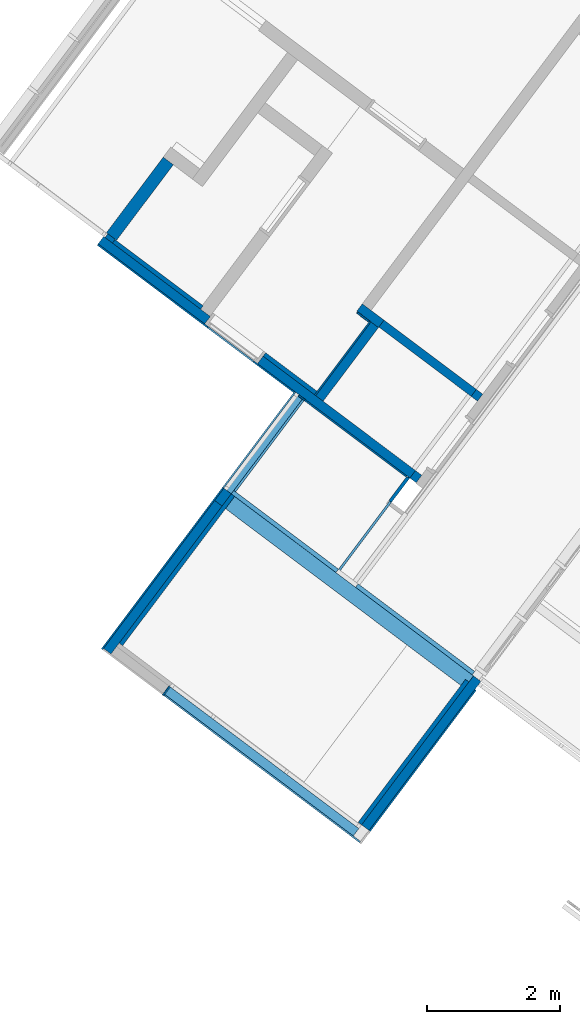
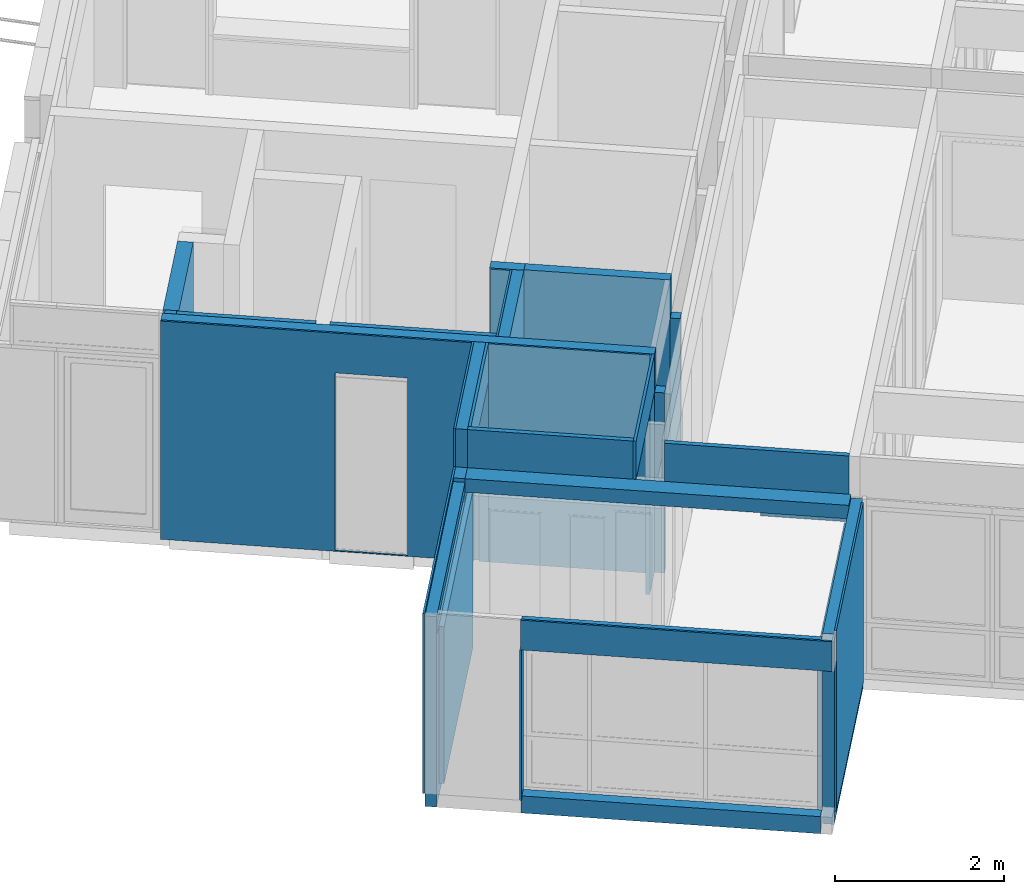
# One storey, part 118 of 243: 34 walls, 4 openings.
"""IFC2X3 building model written with IfcOpenShell, lengths in metres."""

from ifc_helpers import new_model, entity, si_unit, converted_unit, derived_unit, direction, frame, frame_2d, origin, origin_2d_with_axis, place, context, subcontext, project, spatial, polyline, rectangle, extrude, clip, bounded_halfspace, material, layer, layer_set, layer_usage, type_object, element, save


model = new_model("IFC2X3")

# Units and contexts
model_context = context("Model", 3, precision=1e-05, world=origin(), true_north=direction((6.123031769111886e-17, 1.0)))
body_context = subcontext(model_context, "Body", "Model", "MODEL_VIEW")
ifc_project = project(units=[si_unit("LENGTHUNIT", "METRE"), si_unit("AREAUNIT", "SQUARE_METRE"), si_unit("VOLUMEUNIT", "CUBIC_METRE"), converted_unit("PLANEANGLEUNIT", "DEGREE", entity("IfcRatioMeasure", 0.017453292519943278), si_unit("PLANEANGLEUNIT", "RADIAN"), dimensions=[0, 0, 0, 0, 0, 0, 0]), si_unit("MASSUNIT", "GRAM", prefix="KILO"), derived_unit("MASSDENSITYUNIT", [(si_unit("MASSUNIT", "GRAM", prefix="KILO"), 1), (si_unit("LENGTHUNIT", "METRE"), -3)]), derived_unit("IONCONCENTRATIONUNIT", [(si_unit("MASSUNIT", "GRAM", prefix="KILO"), 1), (si_unit("LENGTHUNIT", "METRE"), -3)]), derived_unit("MOMENTOFINERTIAUNIT", [(si_unit("LENGTHUNIT", "METRE"), 4)]), si_unit("TIMEUNIT", "SECOND"), si_unit("FREQUENCYUNIT", "HERTZ"), si_unit("THERMODYNAMICTEMPERATUREUNIT", "DEGREE_CELSIUS"), derived_unit("THERMALTRANSMITTANCEUNIT", [(si_unit("MASSUNIT", "GRAM", prefix="KILO"), 1), (si_unit("THERMODYNAMICTEMPERATUREUNIT", "KELVIN"), -1), (si_unit("TIMEUNIT", "SECOND"), -3)]), derived_unit("THERMALCONDUCTANCEUNIT", [(si_unit("MASSUNIT", "GRAM", prefix="KILO"), 1), (si_unit("THERMODYNAMICTEMPERATUREUNIT", "KELVIN"), -1), (si_unit("TIMEUNIT", "SECOND"), -3), (si_unit("LENGTHUNIT", "METRE"), 1)]), derived_unit("VOLUMETRICFLOWRATEUNIT", [(si_unit("LENGTHUNIT", "METRE"), 3), (si_unit("TIMEUNIT", "SECOND"), -1)]), derived_unit("MASSFLOWRATEUNIT", [(si_unit("MASSUNIT", "GRAM", prefix="KILO"), 1), (si_unit("TIMEUNIT", "SECOND"), -1)]), derived_unit("ROTATIONALFREQUENCYUNIT", [(si_unit("TIMEUNIT", "SECOND"), -1)]), si_unit("ELECTRICCURRENTUNIT", "AMPERE"), si_unit("ELECTRICVOLTAGEUNIT", "VOLT"), si_unit("POWERUNIT", "WATT"), si_unit("FORCEUNIT", "NEWTON", prefix="KILO"), si_unit("ILLUMINANCEUNIT", "LUX"), si_unit("LUMINOUSFLUXUNIT", "LUMEN"), si_unit("LUMINOUSINTENSITYUNIT", "CANDELA"), derived_unit("USERDEFINED", [(si_unit("MASSUNIT", "GRAM", prefix="KILO"), -1), (si_unit("LENGTHUNIT", "METRE"), -2), (si_unit("TIMEUNIT", "SECOND"), 3), (si_unit("LUMINOUSFLUXUNIT", "LUMEN"), 1)]), derived_unit("USERDEFINED", [(si_unit("MASSUNIT", "GRAM", prefix="KILO"), 1), (si_unit("TIMEUNIT", "SECOND"), -3), (si_unit("LENGTHUNIT", "METRE"), 3), (si_unit("ELECTRICCURRENTUNIT", "AMPERE"), -2)]), derived_unit("SOUNDPOWERUNIT", [(si_unit("MASSUNIT", "GRAM", prefix="KILO"), 1), (si_unit("TIMEUNIT", "SECOND"), -3), (si_unit("LENGTHUNIT", "METRE"), 2)]), derived_unit("SOUNDPRESSUREUNIT", [(si_unit("MASSUNIT", "GRAM", prefix="KILO"), 1), (si_unit("LENGTHUNIT", "METRE"), -1), (si_unit("TIMEUNIT", "SECOND"), -2)]), derived_unit("LINEARVELOCITYUNIT", [(si_unit("LENGTHUNIT", "METRE"), 1), (si_unit("TIMEUNIT", "SECOND"), -1)]), si_unit("PRESSUREUNIT", "PASCAL"), derived_unit("USERDEFINED", [(si_unit("MASSUNIT", "GRAM", prefix="KILO"), 1), (si_unit("LENGTHUNIT", "METRE"), -2), (si_unit("TIMEUNIT", "SECOND"), -2)]), derived_unit("LINEARFORCEUNIT", [(si_unit("MASSUNIT", "GRAM", prefix="KILO"), 1), (si_unit("TIMEUNIT", "SECOND"), -2)]), derived_unit("PLANARFORCEUNIT", [(si_unit("MASSUNIT", "GRAM", prefix="KILO"), 1), (si_unit("LENGTHUNIT", "METRE"), -1), (si_unit("TIMEUNIT", "SECOND"), -2)]), derived_unit("SPECIFICHEATCAPACITYUNIT", [(si_unit("THERMODYNAMICTEMPERATUREUNIT", "KELVIN"), -1), (si_unit("LENGTHUNIT", "METRE"), 2), (si_unit("TIMEUNIT", "SECOND"), -2)]), derived_unit("HEATINGVALUEUNIT", [(si_unit("LENGTHUNIT", "METRE"), 2), (si_unit("TIMEUNIT", "SECOND"), -2)]), derived_unit("VAPORPERMEABILITYUNIT", [(si_unit("LENGTHUNIT", "METRE"), -1), (si_unit("TIMEUNIT", "SECOND"), 1)]), derived_unit("DYNAMICVISCOSITYUNIT", [(si_unit("MASSUNIT", "GRAM", prefix="KILO"), 1), (si_unit("TIMEUNIT", "SECOND"), -1), (si_unit("LENGTHUNIT", "METRE"), -1)]), derived_unit("THERMALEXPANSIONCOEFFICIENTUNIT", [(si_unit("THERMODYNAMICTEMPERATUREUNIT", "KELVIN"), -1)]), derived_unit("MODULUSOFELASTICITYUNIT", [(si_unit("MASSUNIT", "GRAM", prefix="KILO"), 1), (si_unit("LENGTHUNIT", "METRE"), -1), (si_unit("TIMEUNIT", "SECOND"), -2)]), derived_unit("ISOTHERMALMOISTURECAPACITYUNIT", [(si_unit("LENGTHUNIT", "METRE"), 3), (si_unit("MASSUNIT", "GRAM", prefix="KILO"), -1)]), derived_unit("MOISTUREDIFFUSIVITYUNIT", [(si_unit("TIMEUNIT", "SECOND"), -1), (si_unit("LENGTHUNIT", "METRE"), 2)])], contexts=[model_context])

# Site, building, storey
site_placement = place(None, frame((0.0, 0.0, 235.0), z_axis=(0.0, 0.0, 1.0), x_axis=(-0.7996477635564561, 0.6004693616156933, 0.0)))
site = spatial("IfcSite", under=ifc_project, at=site_placement, Name="Default", CompositionType="ELEMENT")
building_placement = place(site_placement, origin())
building = spatial("IfcBuilding", under=site, at=building_placement, CompositionType="ELEMENT")
storey_placement = place(building_placement, origin())
storey = spatial("IfcBuildingStorey", under=building, at=storey_placement, Name="P0- Escola", CompositionType="ELEMENT", Elevation=0.0)

# Wall, opening
ifc_material_1 = material(Name="_Ceràmica- ENV")
ifc_layer_1 = layer(ifc_material_1, 0.14)
ifc_layer_set_1 = layer_set([ifc_layer_1], Name="Muro básico:ENV- Ceràmic- 14 cm")
ifc_layer_usage_1 = layer_usage(ifc_layer_set_1, "AXIS2", "NEGATIVE", 0.07)
wall_type_1 = type_object("IfcWallType", Name="Muro básico:ENV- Ceràmic- 14 cm", PredefinedType="STANDARD", material=ifc_layer_set_1)
wall_1_placement = place(storey_placement, frame((21.82514768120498, -20.22019175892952, 0.0), z_axis=(0.0, 0.0, 1.0), x_axis=(-1.0, 0.0, 0.0)))
wall_1 = element("IfcWallStandardCase", 1, at=wall_1_placement, inside=storey, type_object=wall_type_1, material=ifc_layer_usage_1, Name="Muro básico:ENV- Ceràmic- 14 cm", ObjectType="Muro básico:ENV- Ceràmic- 14 cm", context=body_context, shape_type="SweptSolid", body=[
    extrude(rectangle(XDim=5.879999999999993, YDim=0.14000000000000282, at=frame_2d((2.9399999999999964, 0.0), x_axis=(-1.0, 0.0))), origin(), (0.0, 0.0, 1.0), 3.150000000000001),
])
opening_1_placement = place(wall_1_placement, frame((3.0076161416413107, 0.07000000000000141, 0.0)))
element("IfcOpeningElement", 2, at=opening_1_placement, cuts=wall_1, Name="FUS- Alu- Fulla porta opaca:FUS- Alu- Fulla porta opaca- 2,505X0,85:1", ObjectType="Opening", context=body_context, shape_type="SweptSolid", body=[
    extrude(rectangle(XDim=2.573999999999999, YDim=0.9965999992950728, at=frame_2d((1.2869999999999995, 0.4982999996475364), x_axis=(1.0, 0.0))), frame((0.0, 0.0, 0.0), z_axis=(0.0, -1.0, 0.0), x_axis=(0.0, 0.0, 1.0)), (0.0, 0.0, 1.0), 0.14),
])

# Walls
wall_2_placement = place(storey_placement, frame((18.095147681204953, -21.750191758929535, 0.0), z_axis=(0.0, 0.0, 1.0), x_axis=(-1.0, 0.0, 0.0)))
element("IfcWallStandardCase", 3, at=wall_2_placement, inside=storey, type_object=wall_type_1, material=ifc_layer_usage_1, Name="Muro básico:ENV- Ceràmic- 14 cm", ObjectType="Muro básico:ENV- Ceràmic- 14 cm", context=body_context, shape_type="SweptSolid", body=[
    extrude(rectangle(XDim=0.40899999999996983, YDim=0.14000000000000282, at=frame_2d((0.20449999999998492, 0.0), x_axis=(-1.0, 0.0))), origin(), (0.0, 0.0, 1.0), 3.150000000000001),
])
ifc_layer_usage_2 = layer_usage(ifc_layer_set_1, "AXIS2", "POSITIVE", -0.07)
wall_3_placement = place(storey_placement, frame((17.756147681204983, -21.68019175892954, 0.0), z_axis=(0.0, 0.0, 1.0), x_axis=(0.0, 1.0, 0.0)))
element("IfcWallStandardCase", 4, at=wall_3_placement, inside=storey, type_object=wall_type_1, material=ifc_layer_usage_2, Name="Muro básico:ENV- Ceràmic- 14 cm", ObjectType="Muro básico:ENV- Ceràmic- 14 cm", context=body_context, shape_type="SweptSolid", body=[
    extrude(rectangle(XDim=1.3900000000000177, YDim=0.13999999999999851, at=frame_2d((0.6950000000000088, -2.7755575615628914e-16), x_axis=(-1.0, 0.0))), origin(), (0.0, 0.0, 1.0), 3.150000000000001),
])
wall_4_placement = place(storey_placement, frame((21.730147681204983, -20.36019175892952, 0.0), z_axis=(0.0, 0.0, 1.0), x_axis=(0.0, 1.0, 0.0)))
element("IfcWallStandardCase", 5, at=wall_4_placement, inside=storey, type_object=wall_type_1, material=ifc_layer_usage_1, Name="Muro básico:ENV- Ceràmic- 14 cm", ObjectType="Muro básico:ENV- Ceràmic- 14 cm", context=body_context, shape_type="SweptSolid", body=[
    extrude(rectangle(XDim=0.06999999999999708, YDim=0.14000000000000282, at=frame_2d((0.03499999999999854, 0.0), x_axis=(-1.0, 0.0))), origin(), (0.0, 0.0, 1.0), 3.150000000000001),
])
wall_5_placement = place(storey_placement, frame((15.94514768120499, -20.22019175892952, 0.0), z_axis=(0.0, 0.0, 1.0), x_axis=(-1.0, 0.0, 0.0)))
element("IfcWallStandardCase", 6, at=wall_5_placement, inside=storey, type_object=wall_type_1, material=ifc_layer_usage_1, Name="Muro básico:ENV- Ceràmic- 14 cm", ObjectType="Muro básico:ENV- Ceràmic- 14 cm", context=body_context, shape_type="SweptSolid", body=[
    extrude(rectangle(XDim=0.12000000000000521, YDim=0.14000000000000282, at=frame_2d((0.06000000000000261, 0.0), x_axis=(-1.0, 0.0))), origin(), (0.0, 0.0, 1.0), 2.6000000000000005),
])
wall_6_placement = place(storey_placement, frame((13.315147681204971, -18.340191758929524, -0.2), z_axis=(0.0, 0.0, 1.0), x_axis=(0.0, 1.0, 0.0)))
element("IfcWallStandardCase", 7, at=wall_6_placement, inside=storey, type_object=wall_type_1, material=ifc_layer_usage_2, Name="Muro básico:ENV- Ceràmic- 14 cm", ObjectType="Muro básico:ENV- Ceràmic- 14 cm", context=body_context, shape_type="SweptSolid", body=[
    extrude(rectangle(XDim=2.8100000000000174, YDim=0.1399999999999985, at=frame_2d((1.4050000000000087, -1.5265566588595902e-16), x_axis=(-1.0, 0.0))), origin(), (0.0, 0.0, 1.0), 2.748000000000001),
])
wall_7_placement = place(storey_placement, frame((13.385147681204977, -15.390191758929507, 2.1699999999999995)))
element("IfcWallStandardCase", 8, at=wall_7_placement, inside=storey, type_object=wall_type_1, material=ifc_layer_usage_2, Name="Muro básico:ENV- Ceràmic- 14 cm", ObjectType="Muro básico:ENV- Ceràmic- 14 cm", context=body_context, shape_type="Clipping", body=[
    clip(extrude(rectangle(XDim=3.567999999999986, YDim=0.13999999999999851, at=frame_2d((1.783999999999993, -1.3877787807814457e-17), x_axis=(-1.0, 0.0))), origin(), (0.0, 0.0, 1.0), 0.3780000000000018), bounded_halfspace(frame((0.0, 0.03999999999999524, 0.09500000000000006), z_axis=(0.0, 1.0, 0.0), x_axis=(0.0, 0.0, 1.0)), True, frame((0.0, 0.03999999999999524, 0.09500000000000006), z_axis=(0.0, 1.0, 0.0), x_axis=(0.0, 0.0, 1.0)), polyline([(0.0, 0.0), (0.14000000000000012, 0.0), (0.14000000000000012, 3.5679999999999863), (0.0, 3.5679999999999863), (0.0, 0.0)]))),
])

# Wall, opening
wall_8_placement = place(storey_placement, frame((18.025147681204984, -18.225191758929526, -0.2), z_axis=(0.0, 0.0, 1.0), x_axis=(0.0, 1.0, 0.0)))
wall_8 = element("IfcWallStandardCase", 9, at=wall_8_placement, inside=storey, type_object=wall_type_1, material=ifc_layer_usage_1, Name="Muro básico:ENV- Ceràmic- 14 cm", ObjectType="Muro básico:ENV- Ceràmic- 14 cm", context=body_context, shape_type="SweptSolid", body=[
    extrude(rectangle(XDim=2.9050000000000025, YDim=0.13999999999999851, at=frame_2d((1.4525000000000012, -2.0816681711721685e-16), x_axis=(-1.0, 0.0))), origin(), (0.0, 0.0, 1.0), 2.748000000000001),
])
opening_2_placement = place(storey_placement, frame((18.025147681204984, -18.225191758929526, -0.2), z_axis=(0.0, 0.0, 1.0), x_axis=(0.0, 1.0, 0.0)))
element("IfcOpeningElement", 10, at=opening_2_placement, cuts=wall_8, Name="Muro básico:ENV- Ceràmic- 14 cm:1", ObjectType="Opening", context=body_context, shape_type="SweptSolid", body=[
    extrude(rectangle(XDim=2.8750000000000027, YDim=0.11000000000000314, at=frame_2d((-0.4316666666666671, -0.0183333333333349), x_axis=(1.0, 0.0))), frame((1.8691666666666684, 0.03333333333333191, 2.4649999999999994)), (0.0, 0.0, 1.0), 0.14000000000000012),
])

# Walls
wall_9_placement = place(storey_placement, frame((18.025147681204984, -18.341191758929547, -0.2), z_axis=(0.0, 0.0, 1.0), x_axis=(0.0, 1.0, 0.0)))
element("IfcWallStandardCase", 11, at=wall_9_placement, inside=storey, type_object=wall_type_1, material=ifc_layer_usage_1, Name="Muro básico:ENV- Ceràmic- 14 cm", ObjectType="Muro básico:ENV- Ceràmic- 14 cm", context=body_context, shape_type="SweptSolid", body=[
    extrude(rectangle(XDim=0.23100000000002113, YDim=0.1399999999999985, at=frame_2d((0.11550000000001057, 0.0), x_axis=(-1.0, 0.0))), origin(), (0.0, 0.0, 1.0), 2.800000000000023),
])
wall_10_placement = place(storey_placement, frame((18.025147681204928, -20.150191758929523, 2.6000000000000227), z_axis=(0.0, 0.0, 1.0), x_axis=(0.0, 1.0, 0.0)))
element("IfcWallStandardCase", 12, at=wall_10_placement, inside=storey, type_object=wall_type_1, material=ifc_layer_usage_1, Name="Muro básico:ENV- Ceràmic- 14 cm", ObjectType="Muro básico:ENV- Ceràmic- 14 cm", context=body_context, shape_type="SweptSolid", body=[
    extrude(rectangle(XDim=1.8099999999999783, YDim=0.1399999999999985, at=frame_2d((0.9049999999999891, -4.163336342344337e-17), x_axis=(-1.0, 0.0))), origin(), (0.0, 0.0, 1.0), 0.5500000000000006),
])
wall_11_placement = place(storey_placement, frame((16.953147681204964, -15.390191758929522, -0.2), z_axis=(0.0, 0.0, 1.0), x_axis=(-1.0, 0.0, 0.0)))
element("IfcWallStandardCase", 13, at=wall_11_placement, inside=storey, type_object=wall_type_1, material=ifc_layer_usage_1, Name="Muro básico:ENV- Ceràmic- 14 cm", ObjectType="Muro básico:ENV- Ceràmic- 14 cm", context=body_context, shape_type="SweptSolid", body=[
    extrude(rectangle(XDim=3.567999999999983, YDim=0.14000000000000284, at=frame_2d((1.7839999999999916, -1.2351231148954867e-15), x_axis=(-1.0, 0.0))), origin(), (0.0, 0.0, 1.0), 0.24655977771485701),
])

# Wall, opening
ifc_material_2 = material(Name="_Guix laminat- ENV")
ifc_layer_2 = layer(ifc_material_2, 0.02)
ifc_material_3 = material(Name="_Aillament")
ifc_layer_3 = layer(ifc_material_3, 0.045)
ifc_layer_set_2 = layer_set([ifc_layer_2, ifc_layer_3], Name="Muro básico:REV- Guix Laminat Extradossat- Aillament- T1- 6,5 cm")
ifc_layer_usage_3 = layer_usage(ifc_layer_set_2, "AXIS2", "NEGATIVE", 0.032499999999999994)
wall_type_2 = type_object("IfcWallType", Name="Muro básico:REV- Guix Laminat Extradossat- Aillament- T1- 6,5 cm", PredefinedType="STANDARD", material=ifc_layer_set_2)
wall_12_placement = place(storey_placement, frame((19.832647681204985, -20.322691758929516, 0.0), z_axis=(0.0, 0.0, 1.0), x_axis=(-1.0, 0.0, 0.0)))
wall_12 = element("IfcWallStandardCase", 14, at=wall_12_placement, inside=storey, type_object=wall_type_2, material=ifc_layer_usage_3, Name="Muro básico:REV- Guix Laminat Extradossat- Aillament- T1- 6,5 cm", ObjectType="Muro básico:REV- Guix Laminat Extradossat- Aillament- T1- 6,5 cm", context=body_context, shape_type="SweptSolid", body=[
    extrude(rectangle(XDim=1.9815, YDim=0.06500000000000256, at=frame_2d((0.99075, -1.4259426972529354e-15), x_axis=(-1.0, 0.0))), origin(), (0.0, 0.0, 1.0), 3.150000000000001),
])
opening_3_placement = place(wall_12_placement, frame((1.0151161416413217, 1.5564999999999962, 0.0), z_axis=(0.0, 0.0, 1.0), x_axis=(-1.0, 0.0, 0.0)))
element("IfcOpeningElement", 15, at=opening_3_placement, cuts=wall_12, Name="Muro básico:REV- Guix Laminat Extradossat- Aillament- T1- 6,5 cm", ObjectType="Opening", context=body_context, shape_type="SweptSolid", body=[
    extrude(rectangle(XDim=2.599999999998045, YDim=1.0277156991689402, at=frame_2d((0.0, 1.0547118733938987e-15), x_axis=(1.0, 0.0))), frame((0.513857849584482, 3.048, 1.2999999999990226), z_axis=(0.0, -1.0, 0.0), x_axis=(0.0, 0.0, 1.0)), (0.0, 0.0, 1.0), 3.0480000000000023),
])

# Walls
ifc_layer_usage_4 = layer_usage(ifc_layer_set_2, "AXIS2", "POSITIVE", -0.032499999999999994)
wall_13_placement = place(storey_placement, frame((19.99764768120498, -20.322691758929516, 0.0)))
element("IfcWallStandardCase", 16, at=wall_13_placement, inside=storey, type_object=wall_type_2, material=ifc_layer_usage_4, Name="Muro básico:REV- Guix Laminat Extradossat- Aillament- T1- 6,5 cm", ObjectType="Muro básico:REV- Guix Laminat Extradossat- Aillament- T1- 6,5 cm", context=body_context, shape_type="SweptSolid", body=[
    extrude(rectangle(XDim=1.662499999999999, YDim=0.06500000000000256, at=frame_2d((0.8312499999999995, 1.8908485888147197e-15), x_axis=(-1.0, 0.0))), origin(), (0.0, 0.0, 1.0), 3.150000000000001),
])
wall_14_placement = place(storey_placement, frame((15.980147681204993, -18.372691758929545, 2.200000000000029)))
element("IfcWallStandardCase", 17, at=wall_14_placement, inside=storey, type_object=wall_type_2, material=ifc_layer_usage_4, Name="Muro básico:REV- Guix Laminat Extradossat- Aillament- T1- 6,5 cm", ObjectType="Muro básico:REV- Guix Laminat Extradossat- Aillament- T1- 6,5 cm", context=body_context, shape_type="Clipping", body=[
    clip(clip(extrude(rectangle(XDim=1.9749999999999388, YDim=0.06499999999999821, at=frame_2d((0.9874999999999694, 0.0), x_axis=(-1.0, 0.0))), origin(), (0.0, 0.0, 1.0), 0.9499999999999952), bounded_halfspace(frame((1.9099999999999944, 0.032499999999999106, 0.06499999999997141), z_axis=(0.0, 0.0, 1.0), x_axis=(0.0, -1.0, 0.0)), True, frame((1.9099999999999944, 0.032499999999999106, 0.06499999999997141), z_axis=(0.0, 0.0, 1.0), x_axis=(0.0, -1.0, 0.0)), polyline([(0.0, 0.0), (0.0, -1.9099999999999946), (0.0650000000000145, -1.9099999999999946), (0.06500000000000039, 0.0), (0.0, 0.0)]))), bounded_halfspace(frame((1.9099999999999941, -0.032500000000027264, 0.06499999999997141), z_axis=(1.0, 0.0, 0.0), x_axis=(0.0, 0.0, -1.0)), True, frame((1.9099999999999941, -0.032500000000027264, 0.06499999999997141), z_axis=(1.0, 0.0, 0.0), x_axis=(0.0, 0.0, -1.0)), polyline([(0.0, 0.0), (0.06499999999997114, 0.0), (0.06499999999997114, 0.06500000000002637), (0.0, 0.06500000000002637), (0.0, 0.0)]))),
])
wall_15_placement = place(storey_placement, frame((15.610147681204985, -18.372691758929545, 2.200000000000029), z_axis=(0.0, 0.0, 1.0), x_axis=(-1.0, 0.0, 0.0)))
element("IfcWallStandardCase", 18, at=wall_15_placement, inside=storey, type_object=wall_type_2, material=ifc_layer_usage_3, Name="Muro básico:REV- Guix Laminat Extradossat- Aillament- T1- 6,5 cm", ObjectType="Muro básico:REV- Guix Laminat Extradossat- Aillament- T1- 6,5 cm", context=body_context, shape_type="Clipping", body=[
    clip(clip(extrude(rectangle(XDim=2.199999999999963, YDim=0.06499999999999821, at=frame_2d((1.0999999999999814, 0.0), x_axis=(-1.0, 0.0))), origin(), (0.0, 0.0, 1.0), 0.9499999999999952), bounded_halfspace(frame((1.1434586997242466, 0.03250000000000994, 0.06499999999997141), z_axis=(0.0, 0.0, 1.0), x_axis=(0.0, 1.0, 0.0)), True, frame((1.1434586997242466, 0.03250000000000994, 0.06499999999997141), z_axis=(0.0, 0.0, 1.0), x_axis=(0.0, 1.0, 0.0)), polyline([(0.0, 0.0), (0.0, 1.1434586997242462), (-0.06500000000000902, 1.143458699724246), (-0.06500000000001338, 0.0), (0.0, 0.0)]))), bounded_halfspace(frame((1.1434586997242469, -0.03250000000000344, 0.06499999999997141), z_axis=(1.0, 0.0, 0.0), x_axis=(0.0, 0.0, -1.0)), True, frame((1.1434586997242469, -0.03250000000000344, 0.06499999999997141), z_axis=(1.0, 0.0, 0.0), x_axis=(0.0, 0.0, -1.0)), polyline([(0.0, 0.0), (0.06499999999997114, 0.0), (0.06499999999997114, 0.06500000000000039), (0.0, 0.06500000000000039), (0.0, 0.0)]))),
])
wall_16_placement = place(storey_placement, frame((17.922647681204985, -18.340191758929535, 0.0), z_axis=(0.0, 0.0, 1.0), x_axis=(0.0, 1.0, 0.0)))
element("IfcWallStandardCase", 19, at=wall_16_placement, inside=storey, type_object=wall_type_2, material=ifc_layer_usage_3, Name="Muro básico:REV- Guix Laminat Extradossat- Aillament- T1- 6,5 cm", ObjectType="Muro básico:REV- Guix Laminat Extradossat- Aillament- T1- 6,5 cm", context=body_context, shape_type="Clipping", body=[
    clip(extrude(rectangle(XDim=2.815000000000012, YDim=0.06499999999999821, at=frame_2d((1.407500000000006, -4.85722573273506e-17), x_axis=(-1.0, 0.0))), origin(), (0.0, 0.0, 1.0), 2.2649999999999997), bounded_halfspace(frame((2.815000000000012, -0.03250000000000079, 2.2649999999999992), z_axis=(-1.0, 0.0, 0.0), x_axis=(0.0, -1.0, 0.0)), True, frame((2.815000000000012, -0.03250000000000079, 2.2649999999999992), z_axis=(-1.0, 0.0, 0.0), x_axis=(0.0, -1.0, 0.0)), polyline([(0.0, 0.0), (-0.06500000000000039, 0.0), (-0.06500000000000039, -2.2649999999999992), (0.0, -2.2649999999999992), (0.0, 0.0)]))),
])
wall_17_placement = place(storey_placement, frame((13.417647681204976, -15.530191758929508, 0.0), z_axis=(0.0, 0.0, 1.0), x_axis=(0.0, -1.0, 0.0)))
element("IfcWallStandardCase", 20, at=wall_17_placement, inside=storey, type_object=wall_type_2, material=ifc_layer_usage_3, Name="Muro básico:REV- Guix Laminat Extradossat- Aillament- T1- 6,5 cm", ObjectType="Muro básico:REV- Guix Laminat Extradossat- Aillament- T1- 6,5 cm", context=body_context, shape_type="SweptSolid", body=[
    extrude(rectangle(XDim=2.6950000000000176, YDim=0.06499999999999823, at=frame_2d((1.3475000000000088, -1.0755285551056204e-16), x_axis=(-1.0, 0.0))), origin(), (0.0, 0.0, 1.0), 2.2649999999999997),
])
ifc_layer_4 = layer(ifc_material_1, 0.23)
ifc_layer_set_3 = layer_set([ifc_layer_4], Name="Muro básico:ENV- Ceràmic Replè- 23 cm")
ifc_layer_usage_5 = layer_usage(ifc_layer_set_3, "AXIS2", "NEGATIVE", 0.115)
wall_type_3 = type_object("IfcWallType", Name="Muro básico:ENV- Ceràmic Replè- 23 cm", PredefinedType="STANDARD", material=ifc_layer_set_3)
wall_18_placement = place(storey_placement, frame((17.955147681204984, -18.225191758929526, 2.405), z_axis=(0.0, 0.0, 1.0), x_axis=(-1.0, 0.0, 0.0)))
element("IfcWallStandardCase", 21, at=wall_18_placement, inside=storey, type_object=wall_type_3, material=ifc_layer_usage_5, Name="Muro básico:ENV- Ceràmic Replè- 23 cm", ObjectType="Muro básico:ENV- Ceràmic Replè- 23 cm", context=body_context, shape_type="SweptSolid", body=[
    extrude(rectangle(XDim=4.570000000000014, YDim=0.2299999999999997, at=frame_2d((2.285000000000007, 0.0), x_axis=(-1.0, 0.0))), origin(), (0.0, 0.0, 1.0), 0.19500000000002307),
])
ifc_layer_5 = layer(ifc_material_2, 0.02)
ifc_layer_6 = layer(ifc_material_3, 0.015)
ifc_layer_set_4 = layer_set([ifc_layer_5, ifc_layer_6], Name="Muro básico:REV- Guix Laminat Extradossat- Aillament- T1- 3,5 cm")
ifc_layer_usage_6 = layer_usage(ifc_layer_set_4, "AXIS2", "POSITIVE", -0.017499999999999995)
wall_type_4 = type_object("IfcWallType", Name="Muro básico:REV- Guix Laminat Extradossat- Aillament- T1- 3,5 cm", PredefinedType="STANDARD", material=ifc_layer_set_4)
wall_19_placement = place(storey_placement, frame((15.962647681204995, -20.150191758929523, 2.6), z_axis=(0.0, 0.0, 1.0), x_axis=(0.0, 1.0, 0.0)))
element("IfcWallStandardCase", 22, at=wall_19_placement, inside=storey, type_object=wall_type_4, material=ifc_layer_usage_6, Name="Muro básico:REV- Guix Laminat Extradossat- Aillament- T1- 3,5 cm", ObjectType="Muro básico:REV- Guix Laminat Extradossat- Aillament- T1- 3,5 cm", context=body_context, shape_type="SweptSolid", body=[
    extrude(rectangle(XDim=1.8099999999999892, YDim=0.035000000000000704, at=frame_2d((0.9049999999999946, 0.0), x_axis=(-1.0, 0.0))), origin(), (0.0, 0.0, 1.0), 0.5500000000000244),
])
ifc_layer_usage_7 = layer_usage(ifc_layer_set_4, "AXIS2", "NEGATIVE", 0.017499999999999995)
wall_20_placement = place(storey_placement, frame((17.93764768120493, -20.15019175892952, 2.6000000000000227), z_axis=(0.0, 0.0, 1.0), x_axis=(0.0, 1.0, 0.0)))
element("IfcWallStandardCase", 23, at=wall_20_placement, inside=storey, type_object=wall_type_4, material=ifc_layer_usage_7, Name="Muro básico:REV- Guix Laminat Extradossat- Aillament- T1- 3,5 cm", ObjectType="Muro básico:REV- Guix Laminat Extradossat- Aillament- T1- 3,5 cm", context=body_context, shape_type="SweptSolid", body=[
    extrude(rectangle(XDim=1.7449999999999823, YDim=0.035000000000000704, at=frame_2d((0.8724999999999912, 0.0), x_axis=(-1.0, 0.0))), origin(), (0.0, 0.0, 1.0), 0.5500000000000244),
])
ifc_layer_7 = layer(ifc_material_2, 0.03)
ifc_material_4 = material(Name="_Genèric perfils, muntants, rastrells")
ifc_layer_8 = layer(ifc_material_4, 0.07)
ifc_layer_9 = layer(ifc_material_2, 0.03)
ifc_layer_set_5 = layer_set([ifc_layer_7, ifc_layer_8, ifc_layer_9], Name="Muro básico:ENV- Guix Laminat- 13 cm")
ifc_layer_usage_8 = layer_usage(ifc_layer_set_5, "AXIS2", "NEGATIVE", 0.06499999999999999)
wall_type_5 = type_object("IfcWallType", Name="Muro básico:ENV- Guix Laminat- 13 cm", PredefinedType="STANDARD", material=ifc_layer_set_5)
wall_21_placement = place(storey_placement, frame((17.686147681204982, -21.755191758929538, 0.0), z_axis=(0.0, 0.0, 1.0), x_axis=(-1.0, 0.0, 0.0)))
element("IfcWallStandardCase", 24, at=wall_21_placement, inside=storey, type_object=wall_type_5, material=ifc_layer_usage_8, Name="Muro básico:ENV- Guix Laminat- 13 cm", ObjectType="Muro básico:ENV- Guix Laminat- 13 cm", context=body_context, shape_type="SweptSolid", body=[
    extrude(rectangle(XDim=1.7409999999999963, YDim=0.12999999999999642, at=frame_2d((0.8704999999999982, 0.0), x_axis=(-1.0, 0.0))), origin(), (0.0, 0.0, 1.0), 3.150000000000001),
])
wall_22_placement = place(storey_placement, frame((15.945147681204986, -21.755191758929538, 0.0), z_axis=(0.0, 0.0, 1.0), x_axis=(-1.0, 0.0, 0.0)))
element("IfcWallStandardCase", 25, at=wall_22_placement, inside=storey, type_object=wall_type_5, material=ifc_layer_usage_8, Name="Muro básico:ENV- Guix Laminat- 13 cm", ObjectType="Muro básico:ENV- Guix Laminat- 13 cm", context=body_context, shape_type="SweptSolid", body=[
    extrude(rectangle(XDim=0.12000000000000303, YDim=0.12999999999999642, at=frame_2d((0.06000000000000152, 0.0), x_axis=(-1.0, 0.0))), origin(), (0.0, 0.0, 1.0), 2.6000000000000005),
])

# Wall, opening
ifc_material_5 = material(Name="_Enrajolat Gresite- REV- PAV")
ifc_layer_10 = layer(ifc_material_5, 0.01)
ifc_material_6 = material(Name="_Morter Base - REV")
ifc_layer_11 = layer(ifc_material_6, 0.015)
ifc_layer_set_6 = layer_set([ifc_layer_10, ifc_layer_11], Name="Muro básico:REV- Enrajolat peces pasta vitrea- T1- int- 2,5 cm")
ifc_layer_usage_9 = layer_usage(ifc_layer_set_6, "AXIS2", "POSITIVE", -0.0125)
wall_type_6 = type_object("IfcWallType", Name="Muro básico:REV- Enrajolat peces pasta vitrea- T1- int- 2,5 cm", PredefinedType="STANDARD", material=ifc_layer_set_6)
wall_23_placement = place(storey_placement, frame((21.82514768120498, -20.137691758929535, 0.0), z_axis=(0.0, 0.0, 1.0), x_axis=(-1.0, 0.0, 0.0)))
wall_23 = element("IfcWallStandardCase", 26, at=wall_23_placement, inside=storey, type_object=wall_type_6, material=ifc_layer_usage_9, Name="Muro básico:REV- Enrajolat peces pasta vitrea- T1- int- 2,5 cm", ObjectType="Muro básico:REV- Enrajolat peces pasta vitrea- T1- int- 2,5 cm", context=body_context, shape_type="SweptSolid", body=[
    extrude(rectangle(XDim=3.730000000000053, YDim=0.025000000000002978, at=frame_2d((1.8650000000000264, 4.336808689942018e-17), x_axis=(-1.0, 0.0))), origin(), (0.0, 0.0, 1.0), 3.150000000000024),
])
opening_4_placement = place(wall_23_placement, frame((2.940316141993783, 1.536499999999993, 0.005000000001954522), z_axis=(0.0, 0.0, 1.0), x_axis=(-1.0, 0.0, 0.0)))
element("IfcOpeningElement", 27, at=opening_4_placement, cuts=wall_23, Name="Muro básico:REV- Enrajolat peces pasta vitrea- T1- int- 2,5 cm", ObjectType="Opening", context=body_context, shape_type="SweptSolid", body=[
    extrude(rectangle(XDim=2.5699999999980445, YDim=0.8619999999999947, at=origin_2d_with_axis()), frame((0.431000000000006, 3.0480000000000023, 1.2849999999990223), z_axis=(0.0, -1.0, 0.0), x_axis=(0.0, 0.0, 1.0)), (0.0, 0.0, 1.0), 3.048),
])

# Walls
wall_24_placement = place(storey_placement, frame((17.838647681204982, -21.680191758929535, 0.0), z_axis=(0.0, 0.0, 1.0), x_axis=(0.0, 1.0, 0.0)))
element("IfcWallStandardCase", 28, at=wall_24_placement, inside=storey, type_object=wall_type_6, material=ifc_layer_usage_9, Name="Muro básico:REV- Enrajolat peces pasta vitrea- T1- int- 2,5 cm", ObjectType="Muro básico:REV- Enrajolat peces pasta vitrea- T1- int- 2,5 cm", context=body_context, shape_type="SweptSolid", body=[
    extrude(rectangle(XDim=1.3900000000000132, YDim=0.02499999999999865, at=frame_2d((0.6950000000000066, -1.0061396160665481e-16), x_axis=(-1.0, 0.0))), origin(), (0.0, 0.0, 1.0), 3.150000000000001),
])
wall_25_placement = place(storey_placement, frame((18.07864768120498, -21.66769175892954, 0.0), z_axis=(0.0, 0.0, 1.0), x_axis=(-1.0, 0.0, 0.0)))
element("IfcWallStandardCase", 29, at=wall_25_placement, inside=storey, type_object=wall_type_6, material=ifc_layer_usage_9, Name="Muro básico:REV- Enrajolat peces pasta vitrea- T1- int- 2,5 cm", ObjectType="Muro básico:REV- Enrajolat peces pasta vitrea- T1- int- 2,5 cm", context=body_context, shape_type="SweptSolid", body=[
    extrude(rectangle(XDim=0.2274999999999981, YDim=0.025000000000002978, at=frame_2d((0.11374999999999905, 0.0), x_axis=(-1.0, 0.0))), origin(), (0.0, 0.0, 1.0), 3.150000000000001),
])
wall_26_placement = place(storey_placement, frame((18.107647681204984, -18.341191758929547, 0.0), z_axis=(0.0, 0.0, 1.0), x_axis=(0.0, 1.0, 0.0)))
element("IfcWallStandardCase", 30, at=wall_26_placement, inside=storey, type_object=wall_type_6, material=ifc_layer_usage_9, Name="Muro básico:REV- Enrajolat peces pasta vitrea- T1- int- 2,5 cm", ObjectType="Muro básico:REV- Enrajolat peces pasta vitrea- T1- int- 2,5 cm", context=body_context, shape_type="SweptSolid", body=[
    extrude(rectangle(XDim=3.0460000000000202, YDim=0.02499999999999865, at=frame_2d((1.5230000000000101, 1.8214596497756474e-17), x_axis=(-1.0, 0.0))), origin(), (0.0, 0.0, 1.0), 2.6000000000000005),
])
wall_27_placement = place(storey_placement, frame((16.953147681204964, -15.307691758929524, 2.17), z_axis=(0.0, 0.0, 1.0), x_axis=(-1.0, 0.0, 0.0)))
element("IfcWallStandardCase", 31, at=wall_27_placement, inside=storey, type_object=wall_type_6, material=ifc_layer_usage_9, Name="Muro básico:REV- Enrajolat peces pasta vitrea- T1- int- 2,5 cm", ObjectType="Muro básico:REV- Enrajolat peces pasta vitrea- T1- int- 2,5 cm", context=body_context, shape_type="SweptSolid", body=[
    extrude(rectangle(XDim=3.7079999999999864, YDim=0.02499999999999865, at=frame_2d((1.8539999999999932, 1.0286910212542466e-15), x_axis=(-1.0, 0.0))), origin(), (0.0, 0.0, 1.0), 0.43000000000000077),
])
wall_28_placement = place(storey_placement, frame((18.107647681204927, -20.150191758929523, 2.6000000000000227), z_axis=(0.0, 0.0, 1.0), x_axis=(0.0, 1.0, 0.0)))
element("IfcWallStandardCase", 32, at=wall_28_placement, inside=storey, type_object=wall_type_6, material=ifc_layer_usage_9, Name="Muro básico:REV- Enrajolat peces pasta vitrea- T1- int- 2,5 cm", ObjectType="Muro básico:REV- Enrajolat peces pasta vitrea- T1- int- 2,5 cm", context=body_context, shape_type="SweptSolid", body=[
    extrude(rectangle(XDim=1.8089999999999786, YDim=0.02499999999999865, at=frame_2d((0.9044999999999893, 0.0), x_axis=(-1.0, 0.0))), origin(), (0.0, 0.0, 1.0), 0.5500000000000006),
])
wall_29_placement = place(storey_placement, frame((18.03514768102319, -20.13769175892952, 0.0), z_axis=(0.0, 0.0, 1.0), x_axis=(-1.0, 0.0, 0.0)))
element("IfcWallStandardCase", 33, at=wall_29_placement, inside=storey, type_object=wall_type_6, material=ifc_layer_usage_9, Name="Muro básico:REV- Enrajolat peces pasta vitrea- T1- int- 2,5 cm", ObjectType="Muro básico:REV- Enrajolat peces pasta vitrea- T1- int- 2,5 cm", context=body_context, shape_type="SweptSolid", body=[
    extrude(rectangle(XDim=0.11499999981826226, YDim=0.025000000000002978, at=frame_2d((0.05749999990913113, 0.0), x_axis=(-1.0, 0.0))), origin(), (0.0, 0.0, 1.0), 2.6000000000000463),
])
wall_30_placement = place(storey_placement, frame((17.920147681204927, -20.13769175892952, 0.0), z_axis=(0.0, 0.0, 1.0), x_axis=(-1.0, 0.0, 0.0)))
element("IfcWallStandardCase", 34, at=wall_30_placement, inside=storey, type_object=wall_type_6, material=ifc_layer_usage_9, Name="Muro básico:REV- Enrajolat peces pasta vitrea- T1- int- 2,5 cm", ObjectType="Muro básico:REV- Enrajolat peces pasta vitrea- T1- int- 2,5 cm", context=body_context, shape_type="SweptSolid", body=[
    extrude(rectangle(XDim=1.9175000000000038, YDim=0.025000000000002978, at=frame_2d((0.9587500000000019, 0.0), x_axis=(-1.0, 0.0))), origin(), (0.0, 0.0, 1.0), 3.150000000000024),
])
wall_31_placement = place(storey_placement, frame((16.953147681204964, -15.295191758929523, 0.0), z_axis=(0.0, 0.0, 1.0), x_axis=(0.0, -1.0, 0.0)))
element("IfcWallStandardCase", 35, at=wall_31_placement, inside=storey, type_object=wall_type_6, material=ifc_layer_usage_9, Name="Muro básico:REV- Enrajolat peces pasta vitrea- T1- int- 2,5 cm", ObjectType="Muro básico:REV- Enrajolat peces pasta vitrea- T1- int- 2,5 cm", context=body_context, shape_type="SweptSolid", body=[
    extrude(rectangle(XDim=0.16499999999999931, YDim=0.02499999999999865, at=frame_2d((0.08249999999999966, 0.0), x_axis=(-1.0, 0.0))), origin(), (0.0, 0.0, 1.0), 2.1699999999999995),
])
wall_32_placement = place(storey_placement, frame((13.232647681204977, -15.527691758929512, 0.0), z_axis=(0.0, 0.0, 1.0), x_axis=(0.0, -1.0, 0.0)))
element("IfcWallStandardCase", 36, at=wall_32_placement, inside=storey, type_object=wall_type_6, material=ifc_layer_usage_9, Name="Muro básico:REV- Enrajolat peces pasta vitrea- T1- int- 2,5 cm", ObjectType="Muro básico:REV- Enrajolat peces pasta vitrea- T1- int- 2,5 cm", context=body_context, shape_type="SweptSolid", body=[
    extrude(rectangle(XDim=2.66250000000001, YDim=0.02499999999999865, at=frame_2d((1.331250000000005, -5.4643789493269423e-17), x_axis=(-1.0, 0.0))), origin(), (0.0, 0.0, 1.0), 2.6000000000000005),
])
ifc_material_7 = material(Name="_Fusta massisa- T1-  REV- PAV")
ifc_layer_12 = layer(ifc_material_7, 0.02)
ifc_layer_13 = layer(ifc_material_4, 0.03)
ifc_layer_set_7 = layer_set([ifc_layer_12, ifc_layer_13], Name="Muro básico:REV- Fusta- T1- 5 cm")
ifc_layer_usage_10 = layer_usage(ifc_layer_set_7, "AXIS2", "POSITIVE", -0.024999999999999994)
wall_type_7 = type_object("IfcWallType", Name="Muro básico:REV- Fusta- T1- 5 cm", PredefinedType="STANDARD", material=ifc_layer_set_7)
wall_33_placement = place(storey_placement, frame((15.970147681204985, -20.14019175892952, 0.0), z_axis=(0.0, 0.0, 1.0), x_axis=(0.0, 1.0, 0.0)))
element("IfcWallStandardCase", 37, at=wall_33_placement, inside=storey, type_object=wall_type_7, material=ifc_layer_usage_10, Name="Muro básico:REV- Fusta- T1- 5 cm", ObjectType="Muro básico:REV- Fusta- T1- 5 cm", context=body_context, shape_type="SweptSolid", body=[
    extrude(rectangle(XDim=0.4500000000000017, YDim=0.050000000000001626, at=frame_2d((0.22500000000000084, 0.0), x_axis=(-1.0, 0.0))), origin(), (0.0, 0.0, 1.0), 2.6000000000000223),
])
ifc_layer_14 = layer(ifc_material_5, 0.01)
ifc_layer_15 = layer(ifc_material_6, 0.015)
ifc_layer_16 = layer(ifc_material_1, 0.14)
ifc_layer_17 = layer(ifc_material_6, 0.015)
ifc_layer_18 = layer(ifc_material_5, 0.01)
ifc_layer_set_8 = layer_set([ifc_layer_14, ifc_layer_15, ifc_layer_16, ifc_layer_17, ifc_layer_18], Name="Muro básico:ENV- REV- Ceràmic- 14 cm + peces pasta vitrea 2 caras")
ifc_layer_usage_11 = layer_usage(ifc_layer_set_8, "AXIS2", "NEGATIVE", 0.09499999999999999)
wall_type_8 = type_object("IfcWallType", Name="Muro básico:ENV- REV- Ceràmic- 14 cm + peces pasta vitrea 2 caras", PredefinedType="STANDARD", material=ifc_layer_set_8)
wall_34_placement = place(storey_placement, frame((21.73014768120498, -21.78619175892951, 0.0), z_axis=(0.0, 0.0, 1.0), x_axis=(0.0, 1.0, 0.0)))
element("IfcWallStandardCase", 38, at=wall_34_placement, inside=storey, type_object=wall_type_8, material=ifc_layer_usage_11, Name="Muro básico:ENV- REV- Ceràmic- 14 cm + peces pasta vitrea 2 caras", ObjectType="Muro básico:ENV- REV- Ceràmic- 14 cm + peces pasta vitrea 2 caras", context=body_context, shape_type="SweptSolid", body=[
    extrude(rectangle(XDim=1.425999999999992, YDim=0.1900000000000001, at=frame_2d((0.712999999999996, 0.0), x_axis=(-1.0, 0.0))), origin(), (0.0, 0.0, 1.0), 3.150000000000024),
])

save(model, "model.ifc")
